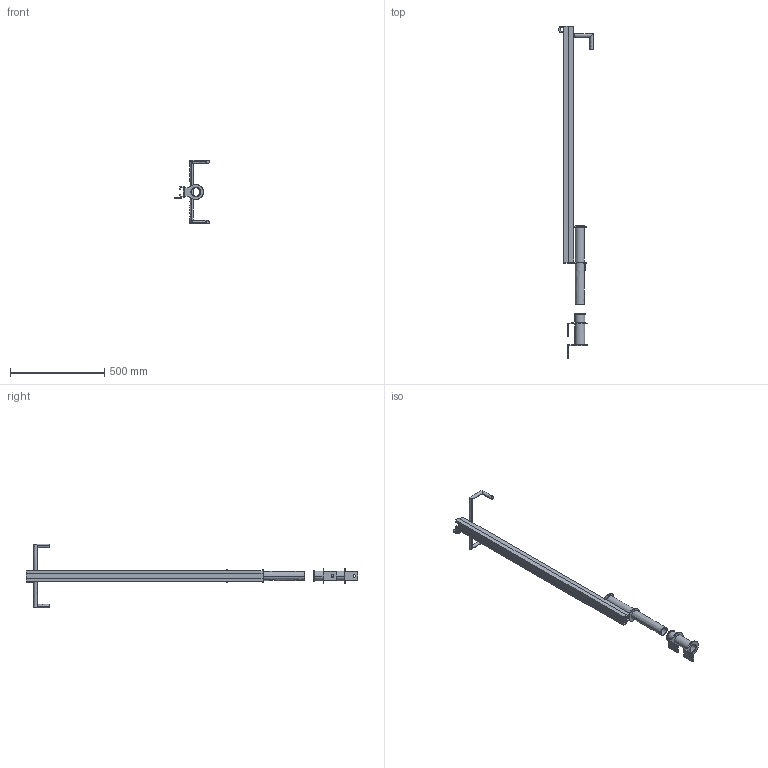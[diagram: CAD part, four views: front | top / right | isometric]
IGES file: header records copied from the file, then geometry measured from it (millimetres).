
Start section:  PTC IGES file: 52170220.igs
Global section: file name: 52170220.igs; native system: Creo Parametric by PTC Inc.; preprocessor: 2023154; author: hrl; organization: Unknown; date: 20231212.134845; units: millimetre
Bounding box: 184.5 x 1765 x 338 mm (x, y, z)
Surface area: 777850.9 mm2 (no closed solid volume)
Topology: 0 solids, 0 shells, 110 faces, 592 edges, 592 vertices
Faces by surface type: bspline 65, revolution 45
